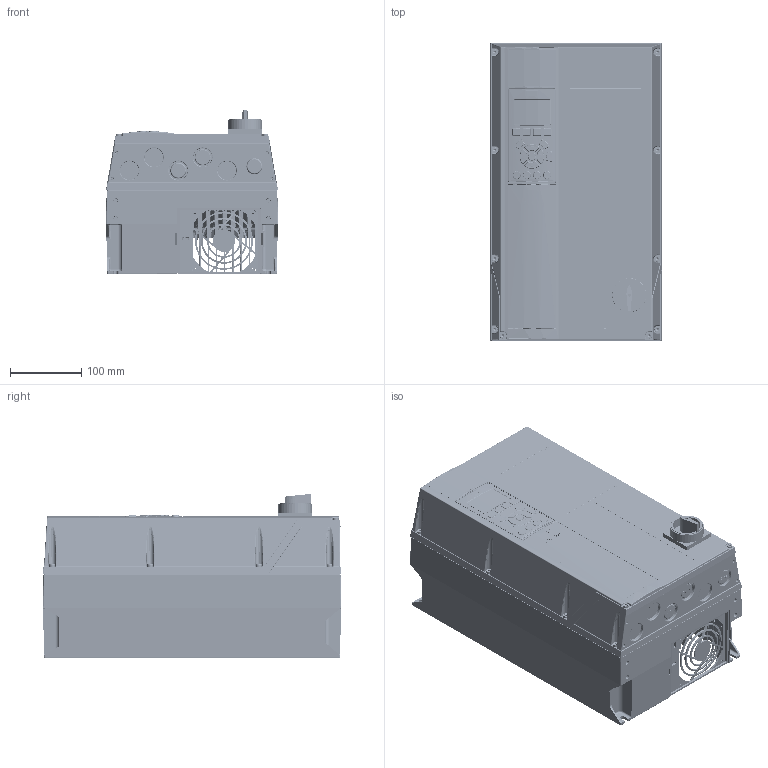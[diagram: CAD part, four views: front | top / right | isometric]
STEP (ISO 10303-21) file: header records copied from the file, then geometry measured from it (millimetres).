
FILE_DESCRIPTION((''),'2;1');
FILE_NAME('DANFOSS-FC-200-A5-SWITCH','2011-10-20T',('cstephenkumar'),('Be-Atch INC. 1993'),'PRO/ENGINEER BY PARAMETRIC TECHNOLOGY CORPORATION, 2009360','PRO/ENGINEER BY PARAMETRIC TECHNOLOGY CORPORATION, 2009360','');
FILE_SCHEMA(('AUTOMOTIVE_DESIGN { 1 0 10303 214 1 1 1 1 }'));
Products named in the file (1): DANFOSS-FC-200-A5-SWITCH
Bounding box: 242 x 420.2 x 231.3 mm (x, y, z)
Volume: 13702699 mm3; surface area: 1525276.9 mm2
Topology: 1 solids, 40 shells, 7057 faces, 17891 edges, 11019 vertices
Faces by surface type: plane 2537, cylinder 1950, bspline 1707, torus 299, cone 268, sphere 169, extrusion 127
Entity records: 385236 total; most frequent: CARTESIAN_POINT 228715, ORIENTED_EDGE 35738, DIRECTION 27357, EDGE_CURVE 17869, VERTEX_POINT 11019, AXIS2_PLACEMENT_3D 9333, VECTOR 8691, LINE 8564
